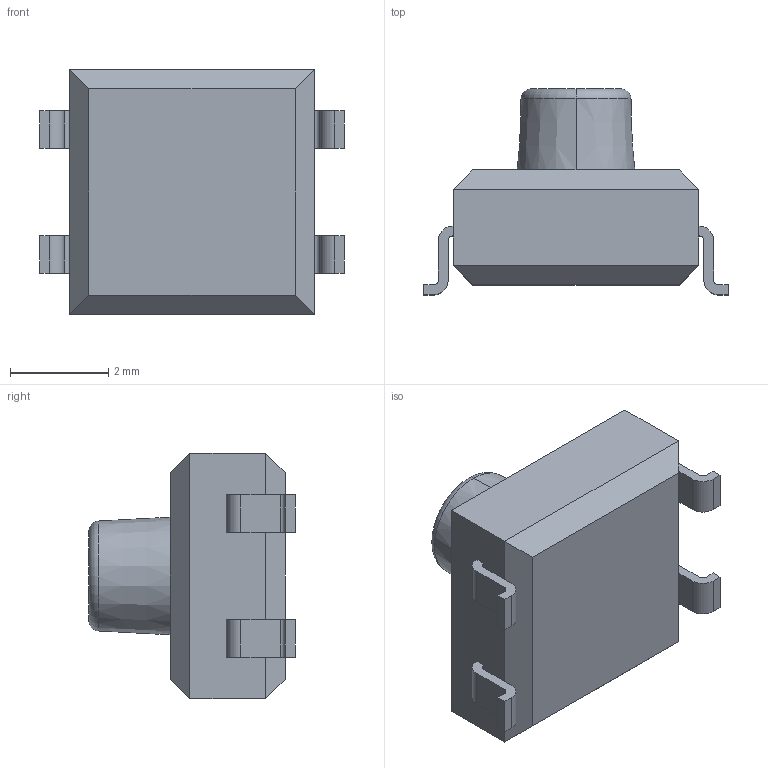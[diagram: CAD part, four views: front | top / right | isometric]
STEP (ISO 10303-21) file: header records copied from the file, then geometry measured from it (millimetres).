
FILE_DESCRIPTION (( 'STEP AP214' ), '1' );
FILE_NAME ('7914G.STEP', '2011-02-01T06:37:48', ( 'vpeshkov' ), ( 'cad-design.ru' ), 'SwSTEP 2.0', 'SolidWorks 2009', '' );
FILE_SCHEMA (( 'AUTOMOTIVE_DESIGN' ));
Length unit declared in the file: millimetre
Products named in the file (1): 7914G
Bounding box: 6.2 x 4.19 x 5 mm (x, y, z)
Volume: 63.3 mm3; surface area: 110.2 mm2
Topology: 1 solids, 1 shells, 63 faces, 158 edges, 102 vertices
Faces by surface type: plane 43, cylinder 16, torus 2, cone 2
Entity records: 2445 total; most frequent: DIRECTION 326, CARTESIAN_POINT 324, ORIENTED_EDGE 316, EDGE_CURVE 158, VECTOR 118, LINE 118, AXIS2_PLACEMENT_3D 104, VERTEX_POINT 102
